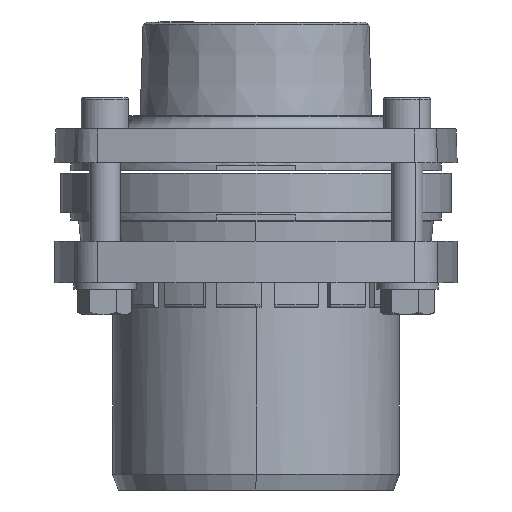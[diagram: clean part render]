
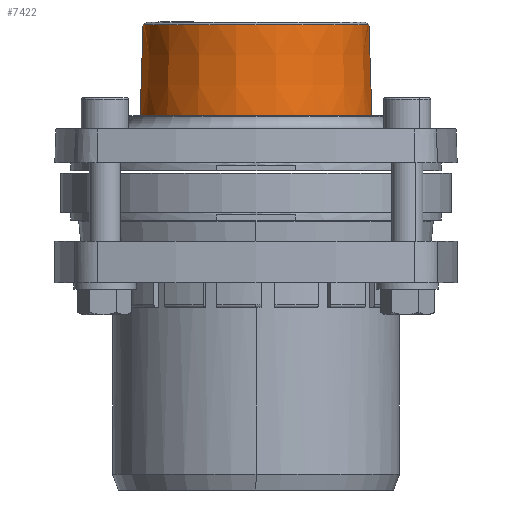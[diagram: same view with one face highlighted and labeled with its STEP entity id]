
A CAD part, front view. The second image highlights one B-rep face of the part: STEP entity #7422.
In plain terms, the highlighted conical face has half-angle 1.788 degrees and reference radius 44.421 mm.
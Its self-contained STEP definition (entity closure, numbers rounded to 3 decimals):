
#1431 = EDGE_CURVE ( 'NONE', #10905, #10913, #14241, .T. ) ;
#1433 = EDGE_CURVE ( 'NONE', #10841, #10934, #14246, .T. ) ;
#3254 = AXIS2_PLACEMENT_3D ( 'NONE', #8017, #8018, #8019 ) ;
#4440 = CIRCLE ( 'NONE', #4443, 43.328 ) ;
#4442 = CIRCLE ( 'NONE', #3254, 44.421 ) ;
#4443 = AXIS2_PLACEMENT_3D ( 'NONE', #8014, #8015, #8016 ) ;
#5286 = VECTOR ( 'NONE', #14245, 1000. ) ;
#5288 = VECTOR ( 'NONE', #14251, 1000. ) ;
#5545 = CARTESIAN_POINT ( 'NONE',  ( -43.328, 0., 72. ) ) ;
#5609 = CARTESIAN_POINT ( 'NONE',  ( 43.328, 0., 72. ) ) ;
#5617 = CARTESIAN_POINT ( 'NONE',  ( 44.421, 0., 37. ) ) ;
#5638 = CARTESIAN_POINT ( 'NONE',  ( -44.421, 0., 37. ) ) ;
#7422 = ADVANCED_FACE ( 'NONE', ( #11541 ), #14647, .T. ) ;
#8014 = CARTESIAN_POINT ( 'NONE',  ( 0., 0., 72. ) ) ;
#8015 = DIRECTION ( 'NONE',  ( 0., 0., -1. ) ) ;
#8016 = DIRECTION ( 'NONE',  ( 1., 0., 0. ) ) ;
#8017 = CARTESIAN_POINT ( 'NONE',  ( 0., 0., 37. ) ) ;
#8018 = DIRECTION ( 'NONE',  ( 0., 0., -1. ) ) ;
#8019 = DIRECTION ( 'NONE',  ( -1., 0., 0. ) ) ;
#10841 = VERTEX_POINT ( 'NONE', #5545 ) ;
#10905 = VERTEX_POINT ( 'NONE', #5609 ) ;
#10913 = VERTEX_POINT ( 'NONE', #5617 ) ;
#10934 = VERTEX_POINT ( 'NONE', #5638 ) ;
#11539 = DIRECTION ( 'NONE',  ( -1., 0., 0. ) ) ;
#11541 = FACE_OUTER_BOUND ( 'NONE', #12126, .T. ) ;
#11542 = DIRECTION ( 'NONE',  ( 0., 0., -1. ) ) ;
#11544 = CARTESIAN_POINT ( 'NONE',  ( 0., 0., 37. ) ) ;
#12126 = EDGE_LOOP ( 'NONE', ( #12414, #12415, #12416, #12417 ) ) ;
#12414 = ORIENTED_EDGE ( 'NONE', *, *, #1431, .F. ) ;
#12415 = ORIENTED_EDGE ( 'NONE', *, *, #12937, .T. ) ;
#12416 = ORIENTED_EDGE ( 'NONE', *, *, #1433, .T. ) ;
#12417 = ORIENTED_EDGE ( 'NONE', *, *, #12938, .F. ) ;
#12937 = EDGE_CURVE ( 'NONE', #10905, #10841, #4440, .T. ) ;
#12938 = EDGE_CURVE ( 'NONE', #10913, #10934, #4442, .T. ) ;
#14229 = CARTESIAN_POINT ( 'NONE',  ( -44.421, 0., 37. ) ) ;
#14231 = CARTESIAN_POINT ( 'NONE',  ( 44.421, 0., 37. ) ) ;
#14241 = LINE ( 'NONE', #14231, #5286 ) ;
#14245 = DIRECTION ( 'NONE',  ( 0.031, 0., -1. ) ) ;
#14246 = LINE ( 'NONE', #14229, #5288 ) ;
#14251 = DIRECTION ( 'NONE',  ( -0.031, 0., -1. ) ) ;
#14647 = CONICAL_SURFACE ( 'NONE', #14648, 44.421, 0.031 ) ;
#14648 = AXIS2_PLACEMENT_3D ( 'NONE', #11544, #11542, #11539 ) ;
